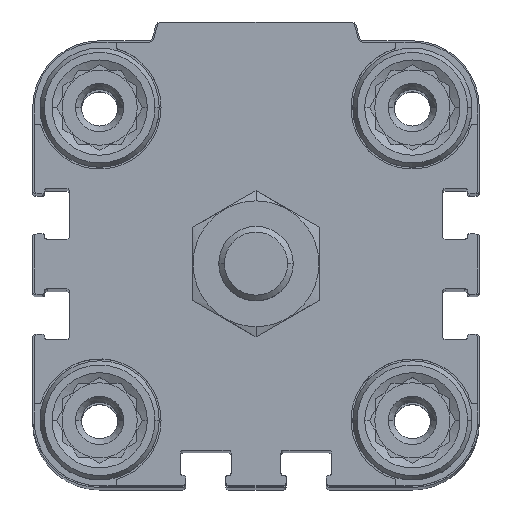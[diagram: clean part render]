
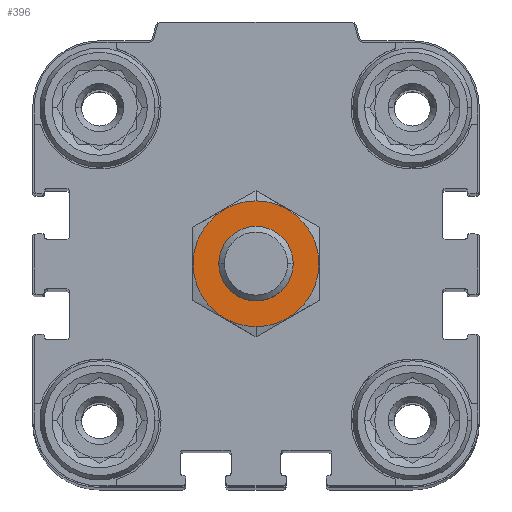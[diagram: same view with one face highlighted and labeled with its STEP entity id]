
A CAD part, top view. The second image highlights one B-rep face of the part: STEP entity #396.
In plain terms, the highlighted planar face has unit normal (0, 0, 1).
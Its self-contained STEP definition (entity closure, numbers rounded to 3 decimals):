
#396 = ADVANCED_FACE ( 'NONE', ( #18967, #12808 ), #18520, .F. ) ;
#584 = VERTEX_POINT ( 'NONE', #14225 ) ;
#849 = DIRECTION ( 'NONE',  ( 0., -1., 0. ) ) ;
#1227 = ORIENTED_EDGE ( 'NONE', *, *, #1949, .T. ) ;
#1448 = DIRECTION ( 'NONE',  ( 0., -1., 0. ) ) ;
#1664 = CIRCLE ( 'NONE', #2826, 5. ) ;
#1714 = DIRECTION ( 'NONE',  ( 0., 0., -1. ) ) ;
#1827 = DIRECTION ( 'NONE',  ( 0., -1., 0. ) ) ;
#1883 = AXIS2_PLACEMENT_3D ( 'NONE', #3527, #1714, #1827 ) ;
#1949 = EDGE_CURVE ( 'NONE', #13038, #8366, #6146, .T. ) ;
#2826 = AXIS2_PLACEMENT_3D ( 'NONE', #7043, #8760, #1448 ) ;
#3527 = CARTESIAN_POINT ( 'NONE',  ( 0., 0., 15.5 ) ) ;
#3778 = ORIENTED_EDGE ( 'NONE', *, *, #22956, .F. ) ;
#4135 = CARTESIAN_POINT ( 'NONE',  ( 0., -8.45, 15.5 ) ) ;
#4974 = AXIS2_PLACEMENT_3D ( 'NONE', #10398, #23422, #6738 ) ;
#5928 = EDGE_LOOP ( 'NONE', ( #3778, #13474 ) ) ;
#6077 = DIRECTION ( 'NONE',  ( 0., -1., 0. ) ) ;
#6146 = CIRCLE ( 'NONE', #4974, 5. ) ;
#6550 = ORIENTED_EDGE ( 'NONE', *, *, #9849, .T. ) ;
#6738 = DIRECTION ( 'NONE',  ( 0., -1., 0. ) ) ;
#7043 = CARTESIAN_POINT ( 'NONE',  ( 0., 0., 15.5 ) ) ;
#8140 = EDGE_CURVE ( 'NONE', #584, #23680, #9625, .T. ) ;
#8366 = VERTEX_POINT ( 'NONE', #16080 ) ;
#8760 = DIRECTION ( 'NONE',  ( 0., 0., -1. ) ) ;
#9625 = CIRCLE ( 'NONE', #19338, 8.45 ) ;
#9849 = EDGE_CURVE ( 'NONE', #8366, #13038, #1664, .T. ) ;
#10099 = DIRECTION ( 'NONE',  ( 0., 0., -1. ) ) ;
#10117 = CARTESIAN_POINT ( 'NONE',  ( 0., 0., 15.5 ) ) ;
#10398 = CARTESIAN_POINT ( 'NONE',  ( 0., 0., 15.5 ) ) ;
#12808 = FACE_BOUND ( 'NONE', #21475, .T. ) ;
#13038 = VERTEX_POINT ( 'NONE', #20168 ) ;
#13474 = ORIENTED_EDGE ( 'NONE', *, *, #8140, .F. ) ;
#14225 = CARTESIAN_POINT ( 'NONE',  ( 0., 8.45, 15.5 ) ) ;
#15702 = CARTESIAN_POINT ( 'NONE',  ( 0., 0., 15.5 ) ) ;
#16080 = CARTESIAN_POINT ( 'NONE',  ( 0., -5., 15.5 ) ) ;
#17194 = AXIS2_PLACEMENT_3D ( 'NONE', #15702, #10099, #6077 ) ;
#17674 = DIRECTION ( 'NONE',  ( 0., 0., -1. ) ) ;
#18520 = PLANE ( 'NONE',  #1883 ) ;
#18967 = FACE_OUTER_BOUND ( 'NONE', #5928, .T. ) ;
#19139 = CIRCLE ( 'NONE', #17194, 8.45 ) ;
#19338 = AXIS2_PLACEMENT_3D ( 'NONE', #10117, #17674, #849 ) ;
#20168 = CARTESIAN_POINT ( 'NONE',  ( 0., 5., 15.5 ) ) ;
#21475 = EDGE_LOOP ( 'NONE', ( #1227, #6550 ) ) ;
#22956 = EDGE_CURVE ( 'NONE', #23680, #584, #19139, .T. ) ;
#23422 = DIRECTION ( 'NONE',  ( 0., 0., -1. ) ) ;
#23680 = VERTEX_POINT ( 'NONE', #4135 ) ;
